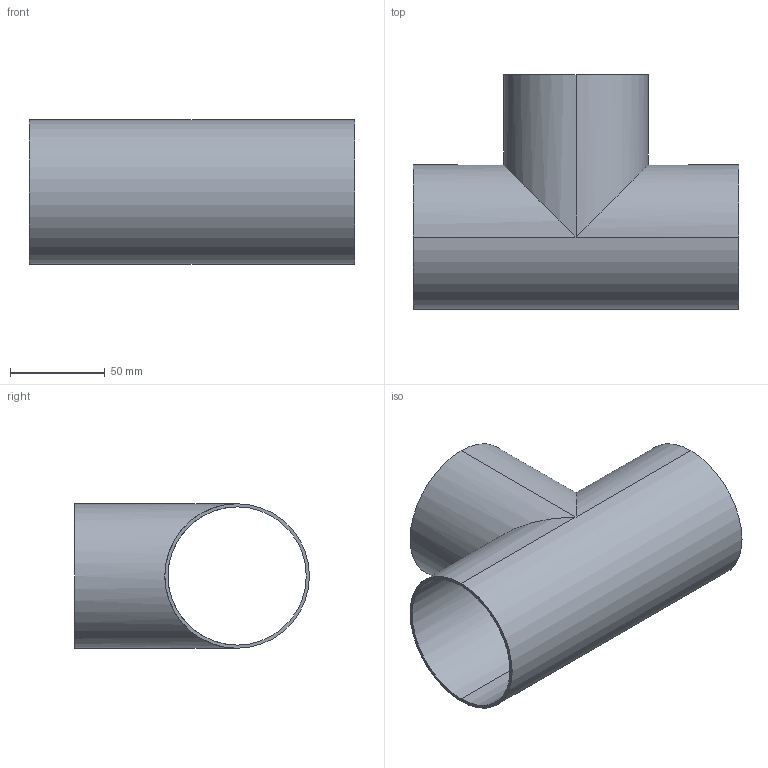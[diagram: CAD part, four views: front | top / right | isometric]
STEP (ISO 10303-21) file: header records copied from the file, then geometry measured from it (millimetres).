
FILE_DESCRIPTION (( 'STEP AP214' ), '1' );
FILE_NAME ('TE7WWW6L3.0-...STEP', '2016-05-23T06:28:14', ( 'eran' ), ( '' ), 'SwSTEP 2.0', 'SolidWorks 2016', '' );
FILE_SCHEMA (( 'AUTOMOTIVE_DESIGN' ));
Length unit declared in the file: millimetre
Products named in the file (1): TE7WWW6L3.0-..
Bounding box: 171.4 x 123.8 x 76.2 mm (x, y, z)
Volume: 81010.2 mm3; surface area: 99346.2 mm2
Topology: 1 solids, 1 shells, 13 faces, 28 edges, 16 vertices
Faces by surface type: cylinder 10, plane 3
Entity records: 392 total; most frequent: CARTESIAN_POINT 70, DIRECTION 64, ORIENTED_EDGE 56, EDGE_CURVE 28, AXIS2_PLACEMENT_3D 26, EDGE_LOOP 16, VERTEX_POINT 16, ADVANCED_FACE 13
